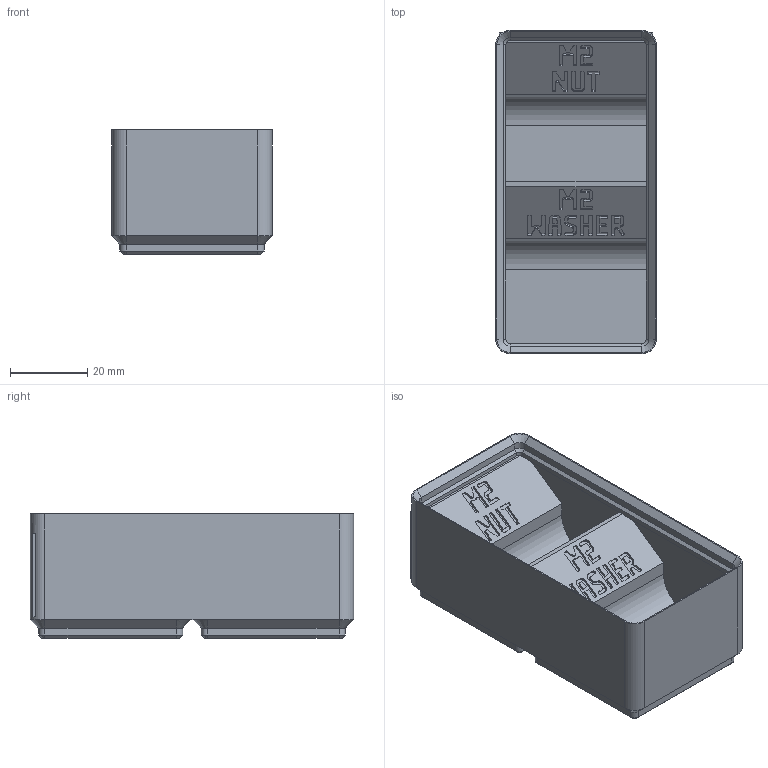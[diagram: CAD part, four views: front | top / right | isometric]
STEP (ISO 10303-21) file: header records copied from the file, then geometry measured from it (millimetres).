
FILE_DESCRIPTION(('Open CASCADE Model'),'2;1');
FILE_NAME('Open CASCADE Shape Model','2026-11-16T17:23:15',('Author'),( 'Open CASCADE'),'Open CASCADE STEP processor 8.0','build123d', 'Unknown');
FILE_SCHEMA(('AUTOMOTIVE_DESIGN { 1 0 10303 214 1 1 1 1 }'));
Products named in the file (1): COMPOUND
Bounding box: 41.5 x 83.5 x 32.1 mm (x, y, z)
Volume: 47218.5 mm3; surface area: 20728 mm2
Topology: 1 solids, 1 shells, 1446 faces, 4210 edges, 2786 vertices
Faces by surface type: plane 1394, cone 28, cylinder 24
Entity records: 101270 total; most frequent: CARTESIAN_POINT 17253, DIRECTION 15312, LINE 12234, VECTOR 12234, ORIENTED_EDGE 8420, PCURVE 8420, DEFINITIONAL_REPRESENTATION 8420, EDGE_CURVE 4210
